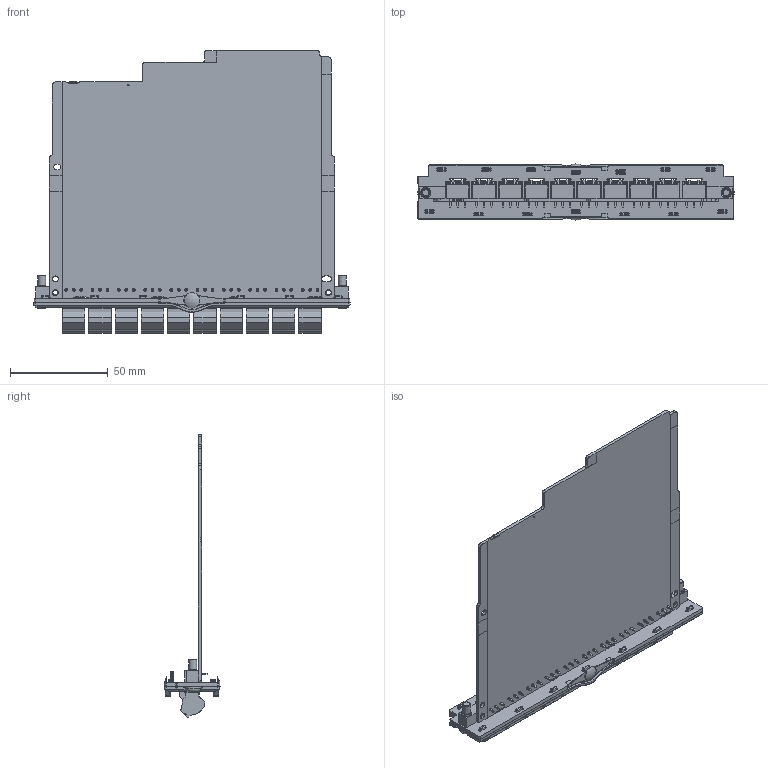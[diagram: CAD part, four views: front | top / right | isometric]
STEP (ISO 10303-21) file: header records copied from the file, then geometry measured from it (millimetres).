
FILE_DESCRIPTION(/* description */ (''),/* implementation_level */ '2;1');
FILE_NAME(/* name */ 'IOM3.3_3D CAD_20250228.stp',/* time_stamp */ '2025-02-28T15:10:07+01:00',/* author */ ('DSP'),/* organization */ (''),/* preprocessor_version */ 'ST-DEVELOPER v19.2',/* originating_system */ 'Autodesk Inventor 2023',/* authorisation */ '');
FILE_SCHEMA (('AUTOMOTIVE_DESIGN { 1 0 10303 214 3 1 1 }'));
Products named in the file (1): IOM3.3_3D CAD_SMPL_20250228
Bounding box: 162.1 x 28.71 x 144.89 mm (x, y, z)
Volume: 63663.4 mm3; surface area: 63513 mm2
Topology: 1 solids, 1 shells, 3184 faces, 8241 edges, 5061 vertices
Faces by surface type: plane 1920, cylinder 914, bspline 178, sphere 96, cone 52, torus 24
Full cylindrical faces by diameter (mm): 0.05 x30, 0.6 x1, 0.8 x14, 1.4 x30, 2.459 x2, 2.5 x32, 2.6 x30, 2.8 x30, 3 x2, 3.05 x3, 3.242 x2, 4 x2, 4.4 x2, 5.5 x2, 8 x2
Entity records: 102898 total; most frequent: CARTESIAN_POINT 21503, ORIENTED_EDGE 16256, DIRECTION 16251, EDGE_CURVE 8128, LINE 5679, VECTOR 5679, AXIS2_PLACEMENT_3D 5286, VERTEX_POINT 5061
